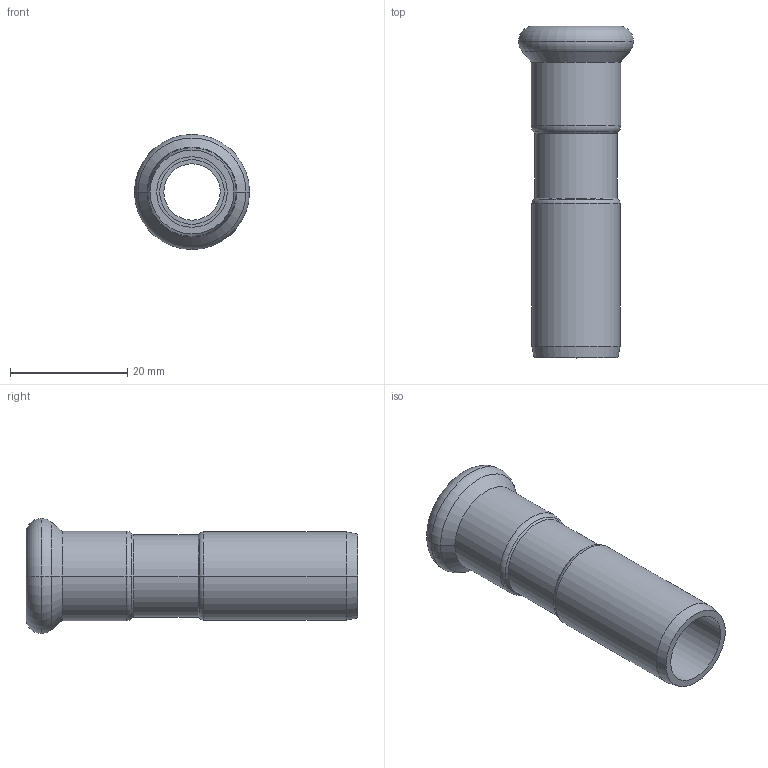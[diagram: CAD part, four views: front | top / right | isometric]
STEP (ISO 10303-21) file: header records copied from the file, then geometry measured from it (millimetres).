
FILE_DESCRIPTION(('CoCreate Modeling STEP Export'),'2;1');
FILE_NAME('C1407 12x15.stp','2014-11-07T14:25:37',(''),(''),'CoCreate Modeling STEP processor for AP214 (Solid Model)','CoCreate Modeling 17.00A 17-Jun-2010 (C) Parametric Technology GmbH','');
FILE_SCHEMA(('AUTOMOTIVE_DESIGN { 1 0 10303 214 1 1 1 1 }'));
Length unit declared in the file: millimetre
Products named in the file (1): C1407_12x15
Bounding box: 19.6 x 56.5 x 19.6 mm (x, y, z)
Volume: 4092.7 mm3; surface area: 5136.5 mm2
Topology: 1 solids, 1 shells, 38 faces, 78 edges, 46 vertices
Faces by surface type: cylinder 16, torus 8, cone 8, plane 6
Entity records: 833 total; most frequent: ORIENTED_EDGE 156, DIRECTION 128, CARTESIAN_POINT 122, EDGE_CURVE 78, AXIS2_PLACEMENT_3D 52, VERTEX_POINT 46, EDGE_LOOP 44, FACE_OUTER_BOUND 38
